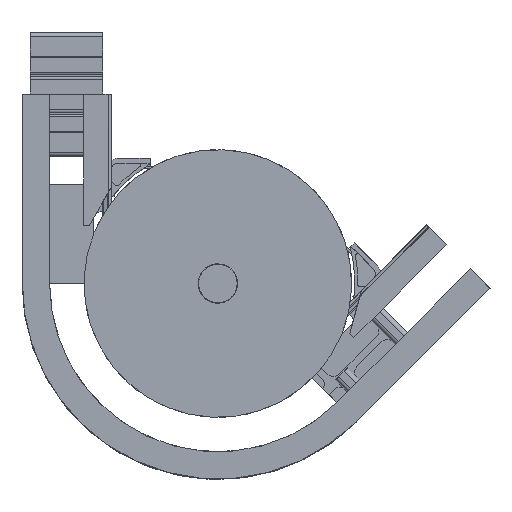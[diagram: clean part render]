
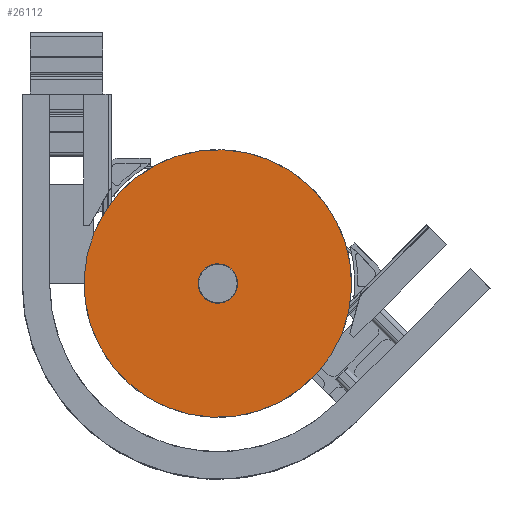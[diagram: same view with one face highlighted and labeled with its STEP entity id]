
A CAD part, front view. The second image highlights one B-rep face of the part: STEP entity #26112.
In plain terms, the highlighted planar face has unit normal (0, -1, 0).
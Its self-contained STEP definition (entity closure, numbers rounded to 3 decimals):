
#26056 = EDGE_CURVE ( 'NONE', #26105, #26149, #46759, .T. ) ;
#26059 = ORIENTED_EDGE ( 'NONE', *, *, #26116, .F. ) ;
#26105 = VERTEX_POINT ( 'NONE', #47109 ) ;
#26109 = EDGE_LOOP ( 'NONE', ( #26111, #26059 ) ) ;
#26110 = ORIENTED_EDGE ( 'NONE', *, *, #26056, .T. ) ;
#26111 = ORIENTED_EDGE ( 'NONE', *, *, #26141, .F. ) ;
#26112 = ADVANCED_FACE ( 'NONE', ( #47030, #47115 ), #47087, .T. ) ;
#26113 = EDGE_CURVE ( 'NONE', #26149, #26105, #47151, .T. ) ;
#26114 = VERTEX_POINT ( 'NONE', #47091 ) ;
#26115 = ORIENTED_EDGE ( 'NONE', *, *, #26113, .T. ) ;
#26116 = EDGE_CURVE ( 'NONE', #26117, #26114, #47137, .T. ) ;
#26117 = VERTEX_POINT ( 'NONE', #47133 ) ;
#26141 = EDGE_CURVE ( 'NONE', #26114, #26117, #47253, .T. ) ;
#26149 = VERTEX_POINT ( 'NONE', #47297 ) ;
#26152 = EDGE_LOOP ( 'NONE', ( #26110, #26115 ) ) ;
#46759 = CIRCLE ( 'NONE', #46828, 177. ) ;
#46823 = DIRECTION ( 'NONE',  ( -0.741, 0., 0.672 ) ) ;
#46824 = DIRECTION ( 'NONE',  ( 0., -1., 0. ) ) ;
#46826 = CARTESIAN_POINT ( 'NONE',  ( 200., -67.5, -250. ) ) ;
#46828 = AXIS2_PLACEMENT_3D ( 'NONE', #46826, #46824, #46823 ) ;
#47030 = FACE_OUTER_BOUND ( 'NONE', #26152, .T. ) ;
#47087 = PLANE ( 'NONE',  #47105 ) ;
#47089 = DIRECTION ( 'NONE',  ( 0., -1., 0. ) ) ;
#47091 = CARTESIAN_POINT ( 'NONE',  ( 180.745, -67.5, -232.529 ) ) ;
#47105 = AXIS2_PLACEMENT_3D ( 'NONE', #47146, #47144, #47143 ) ;
#47109 = CARTESIAN_POINT ( 'NONE',  ( 68.915, -67.5, -131.064 ) ) ;
#47115 = FACE_BOUND ( 'NONE', #26109, .T. ) ;
#47130 = DIRECTION ( 'NONE',  ( -0.741, 0., 0.672 ) ) ;
#47131 = DIRECTION ( 'NONE',  ( 0., -1., 0. ) ) ;
#47132 = CARTESIAN_POINT ( 'NONE',  ( 200., -67.5, -250. ) ) ;
#47133 = CARTESIAN_POINT ( 'NONE',  ( 219.255, -67.5, -267.471 ) ) ;
#47137 = CIRCLE ( 'NONE', #47142, 26. ) ;
#47139 = DIRECTION ( 'NONE',  ( -0.741, 0., 0.672 ) ) ;
#47140 = AXIS2_PLACEMENT_3D ( 'NONE', #47147, #47089, #47139 ) ;
#47142 = AXIS2_PLACEMENT_3D ( 'NONE', #47132, #47131, #47130 ) ;
#47143 = DIRECTION ( 'NONE',  ( -0.741, 0., 0.672 ) ) ;
#47144 = DIRECTION ( 'NONE',  ( 0., -1., 0. ) ) ;
#47146 = CARTESIAN_POINT ( 'NONE',  ( 180.745, -67.5, -232.529 ) ) ;
#47147 = CARTESIAN_POINT ( 'NONE',  ( 200., -67.5, -250. ) ) ;
#47151 = CIRCLE ( 'NONE', #47140, 177. ) ;
#47251 = CARTESIAN_POINT ( 'NONE',  ( 200., -67.5, -250. ) ) ;
#47253 = CIRCLE ( 'NONE', #47322, 26. ) ;
#47297 = CARTESIAN_POINT ( 'NONE',  ( 331.085, -67.5, -368.936 ) ) ;
#47320 = DIRECTION ( 'NONE',  ( -0.741, 0., 0.672 ) ) ;
#47321 = DIRECTION ( 'NONE',  ( 0., -1., 0. ) ) ;
#47322 = AXIS2_PLACEMENT_3D ( 'NONE', #47251, #47321, #47320 ) ;
